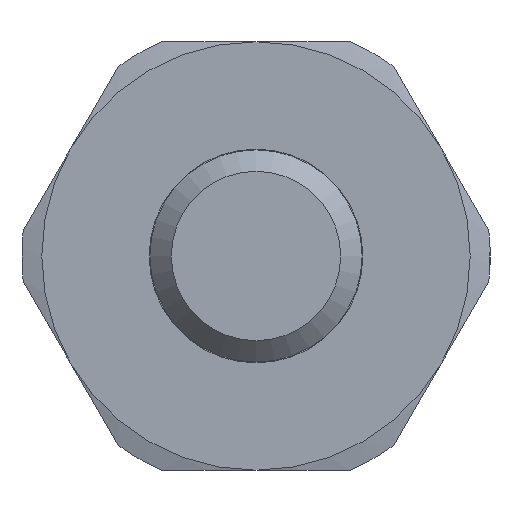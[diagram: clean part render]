
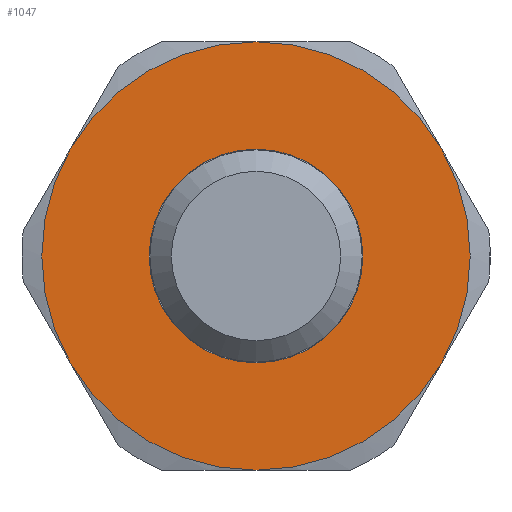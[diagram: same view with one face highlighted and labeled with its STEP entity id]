
A CAD part, left-side view. The second image highlights one B-rep face of the part: STEP entity #1047.
In plain terms, the highlighted planar face has unit normal (-1, 0, 0).
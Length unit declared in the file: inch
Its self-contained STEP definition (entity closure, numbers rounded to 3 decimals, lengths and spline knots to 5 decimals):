
#578=CARTESIAN_POINT('',(-0.219,-0.2495,0.0));
#579=VERTEX_POINT('',#578);
#580=CARTESIAN_POINT('',(-0.219,0.,0.0));
#581=DIRECTION('',(1.0,0.0,0.0));
#582=DIRECTION('',(0.0,-1.0,0.0));
#583=AXIS2_PLACEMENT_3D('',#580,#581,#582);
#584=CIRCLE('',#583,0.2495);
#585=EDGE_CURVE('',#579,#579,#584,.T.);
#983=CARTESIAN_POINT('',(-0.219,0.0,0.0));
#984=DIRECTION('',(1.0,0.0,0.0));
#985=DIRECTION('',(0.0,1.0,0.0));
#986=AXIS2_PLACEMENT_3D('',#983,#984,#985);
#987=PLANE('',#986);
#988=CARTESIAN_POINT('',(-0.219,0.43301,-0.25));
#989=VERTEX_POINT('',#988);
#990=CARTESIAN_POINT('',(-0.219,0.0,-0.5));
#991=VERTEX_POINT('',#990);
#992=CARTESIAN_POINT('',(-0.219,0.0,0.0));
#993=DIRECTION('',(-1.0,0.0,0.0));
#994=DIRECTION('',(0.0,1.0,0.0));
#995=AXIS2_PLACEMENT_3D('',#992,#993,#994);
#996=CIRCLE('',#995,0.5);
#997=EDGE_CURVE('',#989,#991,#996,.T.);
#998=ORIENTED_EDGE('',*,*,#997,.T.);
#999=CARTESIAN_POINT('',(-0.219,-0.43301,-0.25));
#1000=VERTEX_POINT('',#999);
#1001=CARTESIAN_POINT('',(-0.219,0.0,0.0));
#1002=DIRECTION('',(-1.0,0.0,0.0));
#1003=DIRECTION('',(0.0,1.0,0.0));
#1004=AXIS2_PLACEMENT_3D('',#1001,#1002,#1003);
#1005=CIRCLE('',#1004,0.5);
#1006=EDGE_CURVE('',#991,#1000,#1005,.T.);
#1007=ORIENTED_EDGE('',*,*,#1006,.T.);
#1008=CARTESIAN_POINT('',(-0.219,-0.43301,0.25));
#1009=VERTEX_POINT('',#1008);
#1010=CARTESIAN_POINT('',(-0.219,0.0,0.0));
#1011=DIRECTION('',(-1.0,0.0,0.0));
#1012=DIRECTION('',(0.0,1.0,0.0));
#1013=AXIS2_PLACEMENT_3D('',#1010,#1011,#1012);
#1014=CIRCLE('',#1013,0.5);
#1015=EDGE_CURVE('',#1000,#1009,#1014,.T.);
#1016=ORIENTED_EDGE('',*,*,#1015,.T.);
#1017=CARTESIAN_POINT('',(-0.219,0.0,0.5));
#1018=VERTEX_POINT('',#1017);
#1019=CARTESIAN_POINT('',(-0.219,0.0,0.0));
#1020=DIRECTION('',(-1.0,0.0,0.0));
#1021=DIRECTION('',(0.0,1.0,0.0));
#1022=AXIS2_PLACEMENT_3D('',#1019,#1020,#1021);
#1023=CIRCLE('',#1022,0.5);
#1024=EDGE_CURVE('',#1009,#1018,#1023,.T.);
#1025=ORIENTED_EDGE('',*,*,#1024,.T.);
#1026=CARTESIAN_POINT('',(-0.219,0.43301,0.25));
#1027=VERTEX_POINT('',#1026);
#1028=CARTESIAN_POINT('',(-0.219,0.0,0.0));
#1029=DIRECTION('',(-1.0,0.0,0.0));
#1030=DIRECTION('',(0.0,1.0,0.0));
#1031=AXIS2_PLACEMENT_3D('',#1028,#1029,#1030);
#1032=CIRCLE('',#1031,0.5);
#1033=EDGE_CURVE('',#1018,#1027,#1032,.T.);
#1034=ORIENTED_EDGE('',*,*,#1033,.T.);
#1035=CARTESIAN_POINT('',(-0.219,0.0,0.0));
#1036=DIRECTION('',(-1.0,0.0,0.0));
#1037=DIRECTION('',(0.0,1.0,0.0));
#1038=AXIS2_PLACEMENT_3D('',#1035,#1036,#1037);
#1039=CIRCLE('',#1038,0.5);
#1040=EDGE_CURVE('',#1027,#989,#1039,.T.);
#1041=ORIENTED_EDGE('',*,*,#1040,.T.);
#1042=EDGE_LOOP('',(#998,#1007,#1016,#1025,#1034,#1041));
#1043=FACE_OUTER_BOUND('',#1042,.T.);
#1044=ORIENTED_EDGE('',*,*,#585,.T.);
#1045=EDGE_LOOP('',(#1044));
#1046=FACE_BOUND('',#1045,.T.);
#1047=ADVANCED_FACE('',(#1043,#1046),#987,.F.);
